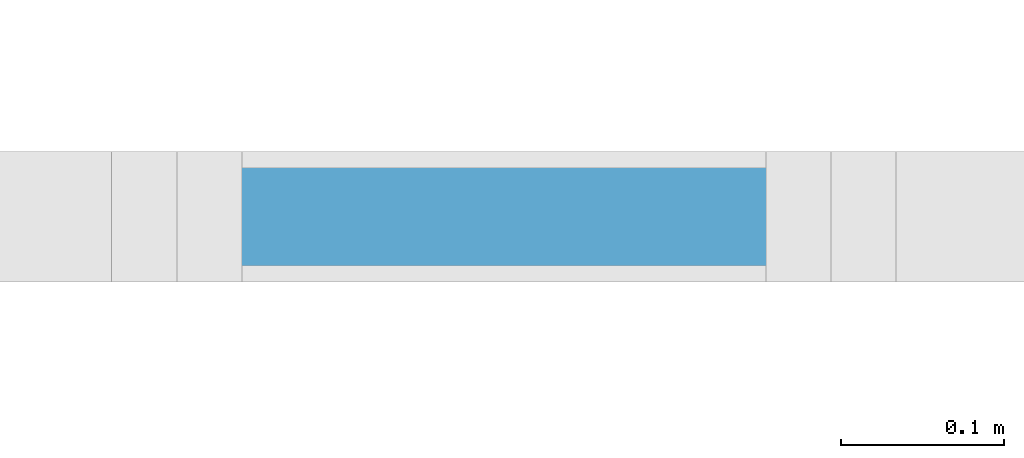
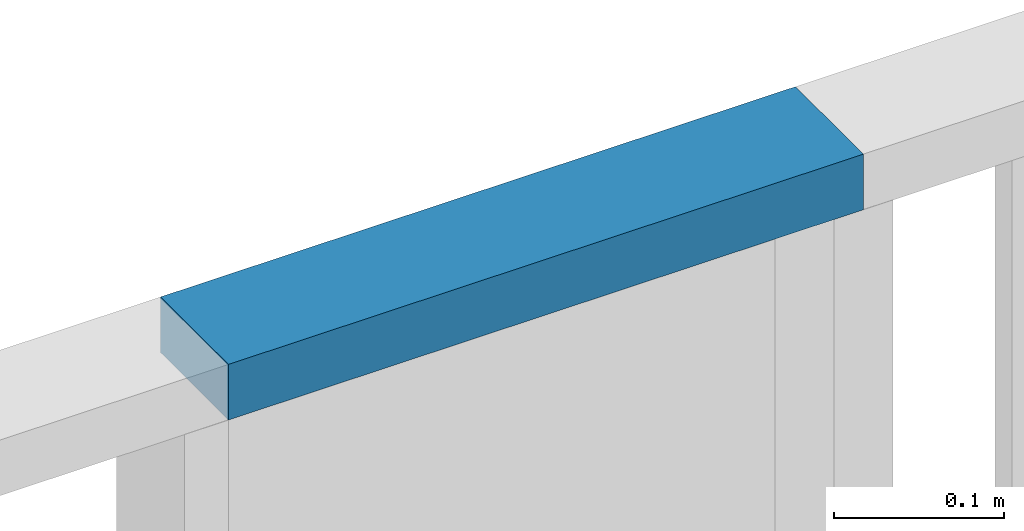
# One storey, part 9 of 91: 1 beam.
"""IFC2X3 building model written with IfcOpenShell, lengths in metres."""

import ifcopenshell
import ifcopenshell.guid

model = None  # the IFC model being written
_history = None  # IfcOwnerHistory: only IFC2X3 demands one
_inside = {}  # id of a spatial element -> (the spatial element, [elements in it])
_under = {}  # id of a project, library or spatial element -> (it, [spatial elements below it])
_declared = {}  # id of a project -> (the project, [libraries it declares])
_typed = {}  # id of a type object -> (the type object, [elements of that type])
_made_of = {}  # id of a material, layer set ... -> (it, [elements and type objects made of it])


def new_model(schema):
    """Start an empty IFC model of exactly this schema.

    Asked for "IFC4X3", IfcOpenShell would pick the latest addendum, in which some entities
    have other attributes; the version numbers below select the first issue.
    IFC2X3 requires an IfcOwnerHistory on every rooted entity: one is made here for all.
    """
    global model, _history
    if schema == "IFC4X3":
        model = ifcopenshell.file(schema_version=(4, 3, 0, 0))
    else:
        model = ifcopenshell.file(schema=schema)
    _inside.clear()
    _under.clear()
    _declared.clear()
    _typed.clear()
    _made_of.clear()
    _history = None
    if model.schema == "IFC2X3":
        org = make("IfcOrganization", Name="unknown")
        user = make(
            "IfcPersonAndOrganization",
            ThePerson=make("IfcPerson", FamilyName="unknown"),
            TheOrganization=org,
        )
        app = make(
            "IfcApplication",
            ApplicationDeveloper=org,
            Version="unknown",
            ApplicationFullName="unknown",
            ApplicationIdentifier="unknown",
        )
        _history = make(
            "IfcOwnerHistory",
            OwningUser=user,
            OwningApplication=app,
            ChangeAction="ADDED",
            CreationDate=0,
        )
    return model


def make(cls, **values):
    """One entity of the class cls with the attributes given. An attribute that is None is left unset."""
    return model.create_entity(
        cls, **{name: value for name, value in values.items() if value is not None}
    )


def entity(cls, *values):
    """Any entity or typed value of the class cls, its attributes in the order of the schema. None: left unset."""
    e = model.create_entity(cls)
    for i, value in enumerate(values):
        if value is not None:
            e[i] = value
    return e


def rooted(cls, **values):
    """An entity with a GlobalId (a new one), such as an element, a storey or a relation."""
    return make(cls, GlobalId=ifcopenshell.guid.new(), OwnerHistory=_history, **values)


def si_unit(unit_type, name, prefix=None):
    """IfcSIUnit, for example si_unit("LENGTHUNIT", "METRE", prefix="MILLI")."""
    return make("IfcSIUnit", UnitType=unit_type, Prefix=prefix, Name=name)


def converted_unit(unit_type, name, factor, base, dimensions=None, offset=None):
    """IfcConversionBasedUnit, such as the inch: factor (a typed value) times the base unit."""
    return make(
        "IfcConversionBasedUnit"
        if offset is None
        else "IfcConversionBasedUnitWithOffset",
        ConversionOffset=offset,
        Dimensions=None
        if dimensions is None
        else entity("IfcDimensionalExponents", *dimensions),
        UnitType=unit_type,
        Name=name,
        ConversionFactor=make(
            "IfcMeasureWithUnit", ValueComponent=factor, UnitComponent=base
        ),
    )


def derived_unit(unit_type, elements):
    """IfcDerivedUnit: a product of units, each with its exponent."""
    return make(
        "IfcDerivedUnit",
        Elements=[
            make("IfcDerivedUnitElement", Unit=unit, Exponent=power)
            for unit, power in elements
        ],
        UnitType=unit_type,
    )


def money_unit(currency):
    """IfcMonetaryUnit."""
    return make("IfcMonetaryUnit", Currency=currency)


def assignment(units):
    """IfcUnitAssignment: the units of a project."""
    return None if units is None else make("IfcUnitAssignment", Units=units)


def point(xyz):
    """IfcCartesianPoint."""
    return None if xyz is None else make("IfcCartesianPoint", Coordinates=xyz)


def direction(xyz):
    """IfcDirection."""
    return None if xyz is None else make("IfcDirection", DirectionRatios=xyz)


def frame(location, z_axis=None, x_axis=None):
    """IfcAxis2Placement3D, a coordinate frame: its origin and axes. An axis left out is left unset."""
    return make(
        "IfcAxis2Placement3D",
        Location=point(location),
        Axis=direction(z_axis),
        RefDirection=direction(x_axis),
    )


def frame_2d(location, x_axis=None):
    """IfcAxis2Placement2D, a coordinate frame in the plane: its origin and x axis."""
    return make(
        "IfcAxis2Placement2D", Location=point(location), RefDirection=direction(x_axis)
    )


def origin_with_axes():
    """The frame at (0, 0, 0) with the z axis (0, 0, 1) and the x axis (1, 0, 0) written out."""
    return frame((0.0, 0.0, 0.0), z_axis=(0.0, 0.0, 1.0), x_axis=(1.0, 0.0, 0.0))


def origin_2d_with_axis():
    """The frame at (0, 0) in the plane with the x axis (1, 0) written out."""
    return frame_2d((0.0, 0.0), x_axis=(1.0, 0.0))


def place(relative_to, where):
    """IfcLocalPlacement: puts the frame where relative to a parent placement (None: the world)."""
    return make(
        "IfcLocalPlacement", PlacementRelTo=relative_to, RelativePlacement=where
    )


def context(
    kind, dimensions, precision=None, world=None, true_north=None, identifier=None
):
    """IfcGeometricRepresentationContext, for example the 3D "Model" context."""
    return make(
        "IfcGeometricRepresentationContext",
        ContextIdentifier=identifier,
        ContextType=kind,
        CoordinateSpaceDimension=dimensions,
        Precision=precision,
        WorldCoordinateSystem=world,
        TrueNorth=true_north,
    )


def subcontext(parent, identifier, kind, view, scale=None):
    """IfcGeometricRepresentationSubContext, for example "Body" below "Model"."""
    return make(
        "IfcGeometricRepresentationSubContext",
        ContextIdentifier=identifier,
        ContextType=kind,
        ParentContext=parent,
        TargetScale=scale,
        TargetView=view,
    )


def project(units=None, contexts=None):
    """IfcProject with its units and contexts."""
    return rooted(
        "IfcProject",
        Name="project",
        RepresentationContexts=contexts,
        UnitsInContext=assignment(units),
    )


def spatial(cls, under=None, at=None, **own):
    """A site, building, storey or space (cls), placed at a placement, below another one or the project."""
    s = rooted(cls, ObjectPlacement=at, **own)
    if under is not None:
        _under.setdefault(under.id(), (under, []))[1].append(s)
    return s


def profile(cls, at=None, kind="AREA", **sizes):
    """A parametric profile (cls). Its sizes go by their IFC names, for example OverallWidth=200.0."""
    return make(cls, ProfileType=kind, Position=at, **sizes)


def rectangle(**sizes):
    """IfcRectangleProfileDef."""
    return profile("IfcRectangleProfileDef", **sizes)


def extrude(swept, where, along, depth):
    """IfcExtrudedAreaSolid: the profile swept, set in the frame where, extruded along a direction by depth."""
    return make(
        "IfcExtrudedAreaSolid",
        SweptArea=swept,
        Position=where,
        ExtrudedDirection=direction(along),
        Depth=depth,
    )


def shape(context_of_items, identifier, shape_type, items):
    """IfcShapeRepresentation: the items that make up one representation, for example the "Body"."""
    return make(
        "IfcShapeRepresentation",
        ContextOfItems=context_of_items,
        RepresentationIdentifier=identifier,
        RepresentationType=shape_type,
        Items=items,
    )


def material(Name=None, Category=None):
    """IfcMaterial."""
    return make("IfcMaterial", Name=Name, Category=Category)


def made_of(thing, what):
    """Note that an element or type object is made of a material, layer set ...; save() writes the relation."""
    if what is not None:
        _made_of.setdefault(what.id(), (what, []))[1].append(thing)
    return thing


def type_object(cls, material=None, **own):
    """A type object (cls), such as IfcWallType, which elements share."""
    return made_of(rooted(cls, **own), material)


def element(
    cls,
    number,
    at=None,
    inside=None,
    cuts=None,
    type_object=None,
    material=None,
    context=None,
    identifier="Body",
    shape_type=None,
    held_by="IfcProductDefinitionShape",
    body=None,
    shapes=None,
    **own,
):
    """One element of the class cls, such as IfcWall. Its Tag is "e" and its number.

    at: its placement. inside: the storey or other place that contains it. cuts: it is an
    opening in that element (IfcRelVoidsElement). A single representation is given by context,
    identifier, shape_type and body (its items); several are given by shapes. held_by: the class
    of the entity that holds the representations. save() writes the other relations.
    """
    e = rooted(cls, Tag="e%d" % number, ObjectPlacement=at, **own)
    if body is not None:
        shapes = [shape(context, identifier, shape_type, body)]
    if shapes is not None:
        e.Representation = make(held_by, Representations=shapes)
    if inside is not None:
        _inside.setdefault(inside.id(), (inside, []))[1].append(e)
    if cuts is not None:
        rooted(
            "IfcRelVoidsElement", RelatingBuildingElement=cuts, RelatedOpeningElement=e
        )
    if type_object is not None:
        _typed.setdefault(type_object.id(), (type_object, []))[1].append(e)
    return made_of(e, material)


def aggregate(whole, parts):
    """IfcRelAggregates: a whole, such as a stair, and the parts it consists of."""
    return rooted("IfcRelAggregates", RelatingObject=whole, RelatedObjects=parts)


def save(model, path):
    """Write the relations noted so far, then the file.

    IfcRelAggregates (storeys below a building ...), IfcRelContainedInSpatialStructure (elements
    in a storey), IfcRelDefinesByType, IfcRelAssociatesMaterial and IfcRelDeclares: one each for
    every whole, place, type object, material and project.
    """
    for whole, parts in _under.values():
        aggregate(whole, parts)
    for where, things in _inside.values():
        rooted(
            "IfcRelContainedInSpatialStructure",
            RelatedElements=things,
            RelatingStructure=where,
        )
    for kind, things in _typed.values():
        rooted("IfcRelDefinesByType", RelatedObjects=things, RelatingType=kind)
    for what, things in _made_of.values():
        rooted("IfcRelAssociatesMaterial", RelatedObjects=things, RelatingMaterial=what)
    for by, libraries in _declared.values():
        rooted("IfcRelDeclares", RelatingContext=by, RelatedDefinitions=libraries)
    model.write(path)


model = new_model("IFC2X3")

# Units and contexts
model_context = context("Model", 3, precision=1e-05, world=origin_with_axes(), true_north=direction((0.0, 1.0)))
body_context = subcontext(model_context, "Body", "Model", "MODEL_VIEW")
ifc_project = project(units=[si_unit("LENGTHUNIT", "METRE"), si_unit("AREAUNIT", "SQUARE_METRE"), si_unit("VOLUMEUNIT", "CUBIC_METRE"), converted_unit("PLANEANGLEUNIT", "DEGREE", entity("IfcPlaneAngleMeasure", 0.0174532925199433), si_unit("PLANEANGLEUNIT", "RADIAN"), dimensions=[0, 0, 0, 0, 0, 0, 0]), money_unit("EUR"), converted_unit("TIMEUNIT", "Year", entity("IfcTimeMeasure", 31557600.0), si_unit("TIMEUNIT", "SECOND"), dimensions=[0, 0, 1, 0, 0, 0, 0]), si_unit("MASSUNIT", "GRAM", prefix="KILO"), si_unit("THERMODYNAMICTEMPERATUREUNIT", "DEGREE_CELSIUS"), si_unit("LUMINOUSINTENSITYUNIT", "LUMEN"), si_unit("ENERGYUNIT", "JOULE", prefix="MEGA"), derived_unit("THERMALCONDUCTANCEUNIT", [(si_unit("POWERUNIT", "WATT"), 1), (si_unit("LENGTHUNIT", "METRE"), -1), (si_unit("THERMODYNAMICTEMPERATUREUNIT", "KELVIN"), -1)]), derived_unit("SPECIFICHEATCAPACITYUNIT", [(si_unit("ENERGYUNIT", "JOULE"), 1), (si_unit("MASSUNIT", "GRAM", prefix="KILO"), -1), (si_unit("THERMODYNAMICTEMPERATUREUNIT", "KELVIN"), -1)]), derived_unit("MASSDENSITYUNIT", [(si_unit("MASSUNIT", "GRAM", prefix="KILO"), 1), (si_unit("VOLUMEUNIT", "CUBIC_METRE"), -1)])], contexts=[model_context])

# Site, building, storey
site_placement = place(None, origin_with_axes())
site = spatial("IfcSite", under=ifc_project, at=site_placement, Name="Site", CompositionType="ELEMENT")
building_placement = place(site_placement, origin_with_axes())
building = spatial("IfcBuilding", under=site, at=building_placement, Name="Bâtiment", CompositionType="ELEMENT")
storey_placement = place(building_placement, origin_with_axes())
storey = spatial("IfcBuildingStorey", under=building, at=storey_placement, Name="RDC", CompositionType="ELEMENT", Elevation=0.0)

# Beam
ifc_material = material(Name="Métal - Acier")
beam_type = type_object("IfcBeamType", Name="Métal - Acier 80 x 40", PredefinedType="NOTDEFINED")
beam_placement = place(storey_placement, frame((82.56570094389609, 4.572697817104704, 0.4800000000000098), z_axis=(0.0, 0.0, 1.0), x_axis=(0.0, -1.0, 0.0)))
element("IfcBeam", 1, at=beam_placement, inside=storey, type_object=beam_type, material=ifc_material, Name="PANNE MULTIBEAM", context=body_context, shape_type="SweptSolid", body=[
    extrude(rectangle(XDim=0.04, YDim=0.08, at=origin_2d_with_axis()), frame((0.0, 0.0, 0.0), z_axis=(0.0, 1.0, 0.0), x_axis=(0.0, 0.0, 1.0)), (0.0, 0.0, 1.0), 0.4317560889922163),
])

save(model, "model.ifc")
